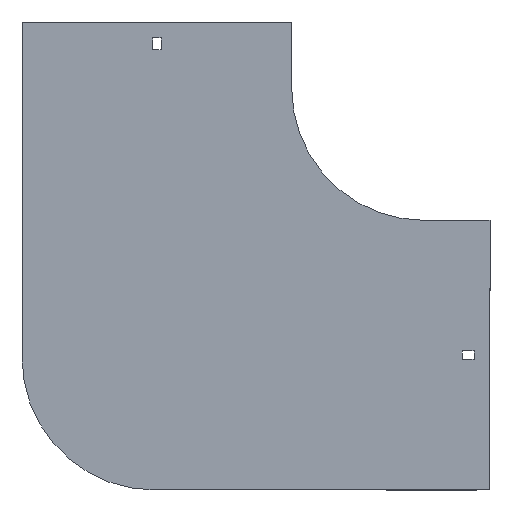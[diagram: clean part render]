
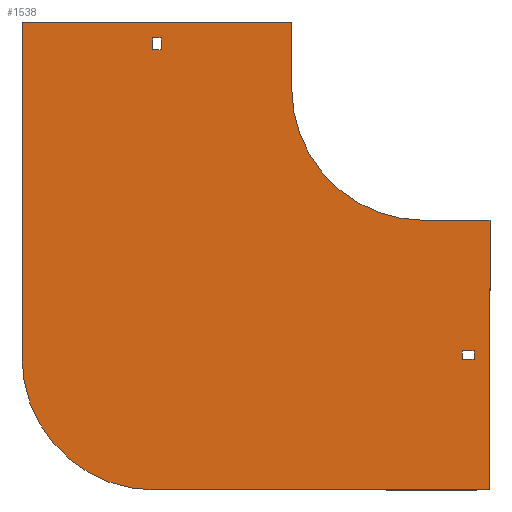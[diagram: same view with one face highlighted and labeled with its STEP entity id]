
A CAD part, front view. The second image highlights one B-rep face of the part: STEP entity #1538.
In plain terms, the highlighted planar face has unit normal (0, -1, 0).
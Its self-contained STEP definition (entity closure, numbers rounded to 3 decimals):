
#21 = ORIENTED_EDGE ( 'NONE', *, *, #571, .T. ) ;
#24 = CARTESIAN_POINT ( 'NONE',  ( 38., 0., -205.25 ) ) ;
#58 = DIRECTION ( 'NONE',  ( 0., 0., -1. ) ) ;
#85 = CARTESIAN_POINT ( 'NONE',  ( 29., 0., -198.75 ) ) ;
#87 = EDGE_CURVE ( 'NONE', #1183, #1290, #1226, .T. ) ;
#89 = EDGE_CURVE ( 'NONE', #1917, #326, #295, .T. ) ;
#95 = VERTEX_POINT ( 'NONE', #1198 ) ;
#114 = DIRECTION ( 'NONE',  ( -1., 0., 0. ) ) ;
#126 = DIRECTION ( 'NONE',  ( 0., 0., -1. ) ) ;
#150 = EDGE_CURVE ( 'NONE', #960, #1627, #955, .T. ) ;
#154 = CIRCLE ( 'NONE', #528, 100. ) ;
#168 = LINE ( 'NONE', #1632, #1873 ) ;
#189 = DIRECTION ( 'NONE',  ( 0., -1., 0. ) ) ;
#215 = ORIENTED_EDGE ( 'NONE', *, *, #1145, .F. ) ;
#219 = EDGE_CURVE ( 'NONE', #653, #1519, #942, .T. ) ;
#246 = LINE ( 'NONE', #1174, #1410 ) ;
#260 = CARTESIAN_POINT ( 'NONE',  ( 29., 0., -205.25 ) ) ;
#273 = LINE ( 'NONE', #690, #587 ) ;
#295 = LINE ( 'NONE', #1081, #1852 ) ;
#311 = CARTESIAN_POINT ( 'NONE',  ( -205.25, 0., 29. ) ) ;
#318 = ORIENTED_EDGE ( 'NONE', *, *, #1480, .F. ) ;
#326 = VERTEX_POINT ( 'NONE', #1332 ) ;
#333 = FACE_BOUND ( 'NONE', #1564, .T. ) ;
#346 = ORIENTED_EDGE ( 'NONE', *, *, #1128, .F. ) ;
#355 = EDGE_CURVE ( 'NONE', #95, #706, #737, .T. ) ;
#376 = CIRCLE ( 'NONE', #555, 100. ) ;
#382 = EDGE_CURVE ( 'NONE', #1681, #95, #1667, .T. ) ;
#400 = LINE ( 'NONE', #1494, #614 ) ;
#409 = LINE ( 'NONE', #260, #1267 ) ;
#422 = VECTOR ( 'NONE', #1121, 1000. ) ;
#432 = ORIENTED_EDGE ( 'NONE', *, *, #575, .T. ) ;
#434 = ORIENTED_EDGE ( 'NONE', *, *, #355, .F. ) ;
#449 = EDGE_CURVE ( 'NONE', #1290, #1703, #1383, .T. ) ;
#450 = VECTOR ( 'NONE', #58, 1000. ) ;
#453 = VECTOR ( 'NONE', #1841, 1000. ) ;
#469 = CARTESIAN_POINT ( 'NONE',  ( 29., 0., -205.25 ) ) ;
#478 = CARTESIAN_POINT ( 'NONE',  ( -304., 0., -204. ) ) ;
#509 = ORIENTED_EDGE ( 'NONE', *, *, #449, .F. ) ;
#515 = VECTOR ( 'NONE', #1835, 1000. ) ;
#528 = AXIS2_PLACEMENT_3D ( 'NONE', #1868, #551, #1452 ) ;
#537 = ORIENTED_EDGE ( 'NONE', *, *, #87, .F. ) ;
#551 = DIRECTION ( 'NONE',  ( 0., -1., 0. ) ) ;
#552 = CARTESIAN_POINT ( 'NONE',  ( -205.25, 0., 38. ) ) ;
#555 = AXIS2_PLACEMENT_3D ( 'NONE', #1304, #1913, #1341 ) ;
#571 = EDGE_CURVE ( 'NONE', #326, #1002, #1023, .T. ) ;
#575 = EDGE_CURVE ( 'NONE', #1002, #675, #246, .T. ) ;
#577 = CARTESIAN_POINT ( 'NONE',  ( 50., 0., -100. ) ) ;
#587 = VECTOR ( 'NONE', #114, 1000. ) ;
#614 = VECTOR ( 'NONE', #710, 1000. ) ;
#628 = ORIENTED_EDGE ( 'NONE', *, *, #1066, .F. ) ;
#647 = VECTOR ( 'NONE', #1759, 1000. ) ;
#653 = VERTEX_POINT ( 'NONE', #832 ) ;
#671 = CARTESIAN_POINT ( 'NONE',  ( 50., 0., -304. ) ) ;
#675 = VERTEX_POINT ( 'NONE', #762 ) ;
#690 = CARTESIAN_POINT ( 'NONE',  ( 29., 0., -198.75 ) ) ;
#706 = VERTEX_POINT ( 'NONE', #671 ) ;
#710 = DIRECTION ( 'NONE',  ( 1., 0., 0. ) ) ;
#737 = LINE ( 'NONE', #577, #1286 ) ;
#739 = CARTESIAN_POINT ( 'NONE',  ( -204., 0., -304. ) ) ;
#747 = DIRECTION ( 'NONE',  ( -1., 0., 0. ) ) ;
#762 = CARTESIAN_POINT ( 'NONE',  ( -198.75, 0., 29. ) ) ;
#768 = EDGE_CURVE ( 'NONE', #1703, #814, #273, .T. ) ;
#779 = FACE_BOUND ( 'NONE', #928, .T. ) ;
#793 = DIRECTION ( 'NONE',  ( 0., 0., -1. ) ) ;
#795 = CARTESIAN_POINT ( 'NONE',  ( -100., 0., 50. ) ) ;
#814 = VERTEX_POINT ( 'NONE', #85 ) ;
#827 = CARTESIAN_POINT ( 'NONE',  ( -198.75, 0., 38. ) ) ;
#832 = CARTESIAN_POINT ( 'NONE',  ( -100., 0., 50. ) ) ;
#884 = CARTESIAN_POINT ( 'NONE',  ( 38., 0., -198.75 ) ) ;
#894 = CARTESIAN_POINT ( 'NONE',  ( -304., 0., 50. ) ) ;
#912 = DIRECTION ( 'NONE',  ( 0., 0., 1. ) ) ;
#928 = EDGE_LOOP ( 'NONE', ( #509, #537, #346, #1147 ) ) ;
#941 = FACE_OUTER_BOUND ( 'NONE', #1871, .T. ) ;
#942 = LINE ( 'NONE', #795, #450 ) ;
#955 = LINE ( 'NONE', #1740, #1409 ) ;
#960 = VERTEX_POINT ( 'NONE', #478 ) ;
#976 = VECTOR ( 'NONE', #1619, 1000. ) ;
#1002 = VERTEX_POINT ( 'NONE', #827 ) ;
#1021 = LINE ( 'NONE', #1911, #976 ) ;
#1023 = LINE ( 'NONE', #552, #647 ) ;
#1024 = CARTESIAN_POINT ( 'NONE',  ( 0., 0., -100. ) ) ;
#1025 = ORIENTED_EDGE ( 'NONE', *, *, #219, .F. ) ;
#1060 = CARTESIAN_POINT ( 'NONE',  ( 0., 0., 0. ) ) ;
#1066 = EDGE_CURVE ( 'NONE', #1519, #1681, #154, .T. ) ;
#1081 = CARTESIAN_POINT ( 'NONE',  ( -205.25, 0., 29. ) ) ;
#1121 = DIRECTION ( 'NONE',  ( 1., 0., 0. ) ) ;
#1128 = EDGE_CURVE ( 'NONE', #814, #1183, #409, .T. ) ;
#1145 = EDGE_CURVE ( 'NONE', #1666, #960, #376, .T. ) ;
#1147 = ORIENTED_EDGE ( 'NONE', *, *, #768, .F. ) ;
#1174 = CARTESIAN_POINT ( 'NONE',  ( -198.75, 0., 29. ) ) ;
#1183 = VERTEX_POINT ( 'NONE', #1354 ) ;
#1198 = CARTESIAN_POINT ( 'NONE',  ( 50., 0., -100. ) ) ;
#1226 = LINE ( 'NONE', #469, #515 ) ;
#1228 = CARTESIAN_POINT ( 'NONE',  ( 38., 0., -205.25 ) ) ;
#1241 = AXIS2_PLACEMENT_3D ( 'NONE', #1060, #189, #793 ) ;
#1267 = VECTOR ( 'NONE', #126, 1000. ) ;
#1286 = VECTOR ( 'NONE', #1678, 1000. ) ;
#1290 = VERTEX_POINT ( 'NONE', #1228 ) ;
#1304 = CARTESIAN_POINT ( 'NONE',  ( -204., 0., -204. ) ) ;
#1332 = CARTESIAN_POINT ( 'NONE',  ( -205.25, 0., 38. ) ) ;
#1341 = DIRECTION ( 'NONE',  ( 0., 0., 1. ) ) ;
#1354 = CARTESIAN_POINT ( 'NONE',  ( 29., 0., -205.25 ) ) ;
#1383 = LINE ( 'NONE', #24, #453 ) ;
#1385 = PLANE ( 'NONE',  #1241 ) ;
#1408 = ORIENTED_EDGE ( 'NONE', *, *, #1926, .T. ) ;
#1409 = VECTOR ( 'NONE', #1546, 1000. ) ;
#1410 = VECTOR ( 'NONE', #1770, 1000. ) ;
#1452 = DIRECTION ( 'NONE',  ( 0., 0., -1. ) ) ;
#1462 = ORIENTED_EDGE ( 'NONE', *, *, #1475, .F. ) ;
#1475 = EDGE_CURVE ( 'NONE', #1627, #653, #400, .T. ) ;
#1480 = EDGE_CURVE ( 'NONE', #706, #1666, #1021, .T. ) ;
#1494 = CARTESIAN_POINT ( 'NONE',  ( -304., 0., 50. ) ) ;
#1519 = VERTEX_POINT ( 'NONE', #1553 ) ;
#1538 = ADVANCED_FACE ( 'NONE', ( #333, #941, #779 ), #1385, .T. ) ;
#1542 = CARTESIAN_POINT ( 'NONE',  ( 0., 0., -100. ) ) ;
#1546 = DIRECTION ( 'NONE',  ( 0., 0., 1. ) ) ;
#1553 = CARTESIAN_POINT ( 'NONE',  ( -100., 0., 0. ) ) ;
#1564 = EDGE_LOOP ( 'NONE', ( #1778, #21, #432, #1408 ) ) ;
#1572 = ORIENTED_EDGE ( 'NONE', *, *, #150, .F. ) ;
#1613 = ORIENTED_EDGE ( 'NONE', *, *, #382, .F. ) ;
#1619 = DIRECTION ( 'NONE',  ( -1., 0., 0. ) ) ;
#1627 = VERTEX_POINT ( 'NONE', #894 ) ;
#1632 = CARTESIAN_POINT ( 'NONE',  ( -205.25, 0., 29. ) ) ;
#1666 = VERTEX_POINT ( 'NONE', #739 ) ;
#1667 = LINE ( 'NONE', #1542, #422 ) ;
#1678 = DIRECTION ( 'NONE',  ( 0., 0., -1. ) ) ;
#1681 = VERTEX_POINT ( 'NONE', #1024 ) ;
#1703 = VERTEX_POINT ( 'NONE', #884 ) ;
#1740 = CARTESIAN_POINT ( 'NONE',  ( -304., 0., -204. ) ) ;
#1759 = DIRECTION ( 'NONE',  ( 1., 0., 0. ) ) ;
#1770 = DIRECTION ( 'NONE',  ( 0., 0., -1. ) ) ;
#1778 = ORIENTED_EDGE ( 'NONE', *, *, #89, .T. ) ;
#1835 = DIRECTION ( 'NONE',  ( 1., 0., 0. ) ) ;
#1841 = DIRECTION ( 'NONE',  ( 0., 0., 1. ) ) ;
#1852 = VECTOR ( 'NONE', #912, 1000. ) ;
#1868 = CARTESIAN_POINT ( 'NONE',  ( 0., 0., 0. ) ) ;
#1871 = EDGE_LOOP ( 'NONE', ( #1462, #1572, #215, #318, #434, #1613, #628, #1025 ) ) ;
#1873 = VECTOR ( 'NONE', #747, 1000. ) ;
#1911 = CARTESIAN_POINT ( 'NONE',  ( 50., 0., -304. ) ) ;
#1913 = DIRECTION ( 'NONE',  ( 0., 1., 0. ) ) ;
#1917 = VERTEX_POINT ( 'NONE', #311 ) ;
#1926 = EDGE_CURVE ( 'NONE', #675, #1917, #168, .T. ) ;
